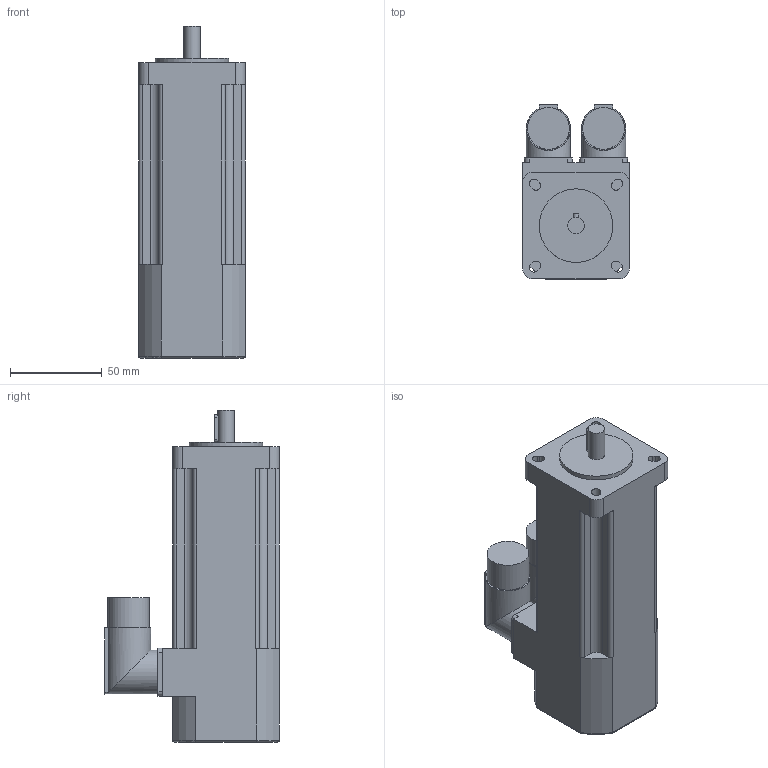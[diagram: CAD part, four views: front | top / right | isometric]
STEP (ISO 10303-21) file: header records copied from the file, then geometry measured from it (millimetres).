
FILE_DESCRIPTION(/* description */ (''),/* implementation_level */ '2;1');
FILE_NAME(/* name */ '\\Lafnas01\disegni\Archivi Lafert\3D\CAD 3D\MODELLI\Assiemi clienti\Serad\Modelli 3D Serad\B28Q\Encoder\With Brake\B28D7Qxx6BRx2033.ipt.stp',/* time_stamp */ '2015-09-07T10:48:22+02:00',/* author */ ('Pastrello Ylenia'),/* organization */ (''),/* preprocessor_version */ 'ST-DEVELOPER v15.6',/* originating_system */ 'Autodesk Inventor 2015',/* authorisation */ '');
FILE_SCHEMA (('AUTOMOTIVE_DESIGN { 1 0 10303 214 3 1 1 }'));
Length unit declared in the file: millimetre
Products named in the file (1): B28D7Qxx6BRx2033
Bounding box: 58 x 95 x 180.5 mm (x, y, z)
Volume: 548473.9 mm3; surface area: 54049.6 mm2
Topology: 1 solids, 1 shells, 135 faces, 364 edges, 237 vertices
Faces by surface type: plane 71, cylinder 60, torus 4
Full cylindrical faces by diameter (mm): 9 x1, 22.7 x2, 24 x2, 40 x1
Entity records: 4341 total; most frequent: CARTESIAN_POINT 864, DIRECTION 737, ORIENTED_EDGE 712, EDGE_CURVE 355, AXIS2_PLACEMENT_3D 258, VERTEX_POINT 235, LINE 221, VECTOR 221
